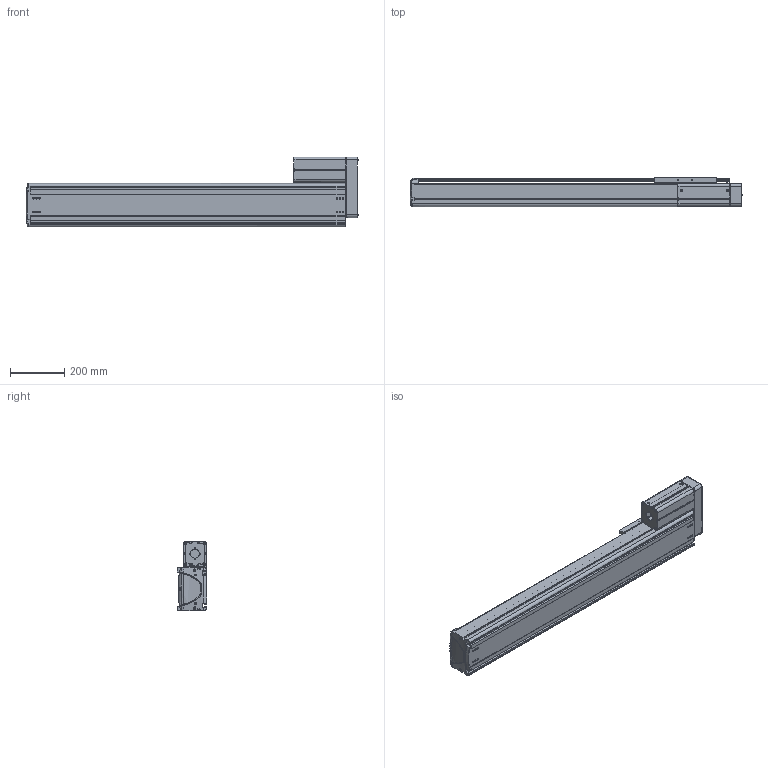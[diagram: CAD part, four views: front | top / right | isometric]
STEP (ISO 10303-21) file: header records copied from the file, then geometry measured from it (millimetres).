
FILE_DESCRIPTION((''),'2;1');
FILE_NAME('BE50F-UR-L_B-85_IGS_PRT','2017-06-18T',(' '),(''),'PRO/ENGINEER BY PARAMETRIC TECHNOLOGY CORPORATION, 2015030','PRO/ENGINEER BY PARAMETRIC TECHNOLOGY CORPORATION, 2015030','');
FILE_SCHEMA(('CONFIG_CONTROL_DESIGN'));
Length unit declared in the file: millimetre
Products named in the file (1): BE50F-UR-L_B-85_IGS_PRT
Bounding box: 1225.88 x 110 x 257 mm (x, y, z)
Volume: 5259494.7 mm3; surface area: 2151919.2 mm2
Topology: 6 solids, 138 shells, 2251 faces, 6164 edges, 4028 vertices
Faces by surface type: plane 1006, cylinder 971, cone 135, torus 59, bspline 48, sphere 32
Entity records: 74789 total; most frequent: CARTESIAN_POINT 17124, DIRECTION 12059, ORIENTED_EDGE 11724, EDGE_CURVE 6110, AXIS2_PLACEMENT_3D 4311, VERTEX_POINT 4022, VECTOR 3437, LINE 3437
